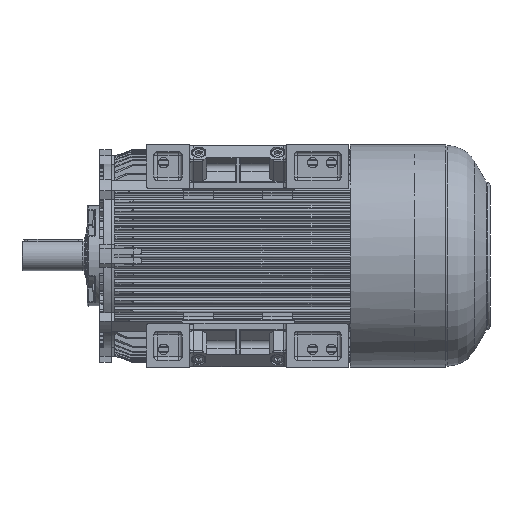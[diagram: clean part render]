
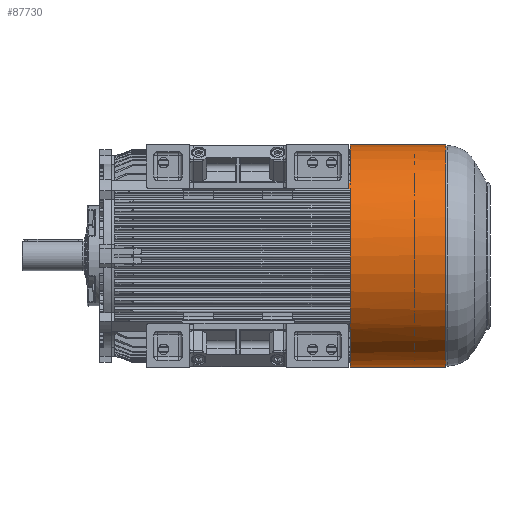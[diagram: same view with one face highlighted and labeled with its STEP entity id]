
A CAD part, front view. The second image highlights one B-rep face of the part: STEP entity #87730.
In plain terms, the highlighted cylindrical face has radius 302.496 mm (diameter 604.992 mm), a full revolution.
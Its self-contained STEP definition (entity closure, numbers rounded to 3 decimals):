
#1325=B_SPLINE_CURVE_WITH_KNOTS('',3,(#123189,#123190,#123191,#123192,#123193,
#123194,#123195,#123196,#123197,#123198,#123199,#123200,#123201,#123202,
#123203,#123204,#123205,#123206,#123207,#123208,#123209,#123210,#123211,
#123212,#123213,#123214,#123215,#123216,#123217,#123218),.UNSPECIFIED.,
 .F.,.F.,(4,1,1,1,1,1,1,1,1,1,1,1,1,1,1,1,1,1,1,1,1,1,1,1,1,1,1,4),(0.,
0.012,0.018,0.024,0.035,
0.041,0.047,0.053,0.059,
0.065,0.071,0.076,0.082,
0.088,0.094,0.1,0.106,
0.118,0.123,0.129,0.135,
0.141,0.147,0.153,0.159,
0.165,0.176,0.188),.UNSPECIFIED.);
#2523=CYLINDRICAL_SURFACE('',#92437,302.496);
#5010=LINE('',#123175,#9505);
#5011=LINE('',#123179,#9506);
#5012=LINE('',#123183,#9507);
#5013=LINE('',#123187,#9508);
#5014=LINE('',#123220,#9509);
#5015=LINE('',#123224,#9510);
#9505=VECTOR('',#102466,1000.);
#9506=VECTOR('',#102469,1000.);
#9507=VECTOR('',#102472,1000.);
#9508=VECTOR('',#102475,1000.);
#9509=VECTOR('',#102476,1000.);
#9510=VECTOR('',#102479,1000.);
#16931=ORIENTED_EDGE('',*,*,#33033,.T.);
#16932=ORIENTED_EDGE('',*,*,#33620,.T.);
#16933=ORIENTED_EDGE('',*,*,#33031,.T.);
#16934=ORIENTED_EDGE('',*,*,#33621,.T.);
#16935=ORIENTED_EDGE('',*,*,#33622,.F.);
#16936=ORIENTED_EDGE('',*,*,#33623,.F.);
#16937=ORIENTED_EDGE('',*,*,#33624,.F.);
#16938=ORIENTED_EDGE('',*,*,#33625,.T.);
#16939=ORIENTED_EDGE('',*,*,#33626,.F.);
#16940=ORIENTED_EDGE('',*,*,#33627,.F.);
#16941=ORIENTED_EDGE('',*,*,#33628,.F.);
#16942=ORIENTED_EDGE('',*,*,#33629,.F.);
#16943=ORIENTED_EDGE('',*,*,#33630,.F.);
#16944=ORIENTED_EDGE('',*,*,#33631,.F.);
#16945=ORIENTED_EDGE('',*,*,#33632,.T.);
#33031=EDGE_CURVE('',#41691,#41690,#47142,.T.);
#33033=EDGE_CURVE('',#41692,#41692,#47143,.T.);
#33620=EDGE_CURVE('',#42147,#41691,#47345,.F.);
#33621=EDGE_CURVE('',#41690,#42148,#47346,.F.);
#33622=EDGE_CURVE('',#42149,#42148,#5010,.T.);
#33623=EDGE_CURVE('',#42150,#42149,#47347,.T.);
#33624=EDGE_CURVE('',#42151,#42150,#5011,.F.);
#33625=EDGE_CURVE('',#42151,#42152,#47348,.T.);
#33626=EDGE_CURVE('',#42153,#42152,#5012,.T.);
#33627=EDGE_CURVE('',#42154,#42153,#47349,.T.);
#33628=EDGE_CURVE('',#42155,#42154,#5013,.T.);
#33629=EDGE_CURVE('',#42156,#42155,#1325,.T.);
#33630=EDGE_CURVE('',#42157,#42156,#5014,.F.);
#33631=EDGE_CURVE('',#42158,#42157,#47350,.T.);
#33632=EDGE_CURVE('',#42158,#42147,#5015,.T.);
#41690=VERTEX_POINT('',#121346);
#41691=VERTEX_POINT('',#121348);
#41692=VERTEX_POINT('',#121352);
#42147=VERTEX_POINT('',#123172);
#42148=VERTEX_POINT('',#123174);
#42149=VERTEX_POINT('',#123176);
#42150=VERTEX_POINT('',#123178);
#42151=VERTEX_POINT('',#123180);
#42152=VERTEX_POINT('',#123182);
#42153=VERTEX_POINT('',#123184);
#42154=VERTEX_POINT('',#123186);
#42155=VERTEX_POINT('',#123188);
#42156=VERTEX_POINT('',#123219);
#42157=VERTEX_POINT('',#123221);
#42158=VERTEX_POINT('',#123223);
#47142=CIRCLE('',#92049,302.496);
#47143=CIRCLE('',#92051,302.496);
#47345=CIRCLE('',#92438,302.496);
#47346=CIRCLE('',#92439,302.496);
#47347=CIRCLE('',#92440,302.496);
#47348=CIRCLE('',#92441,302.496);
#47349=CIRCLE('',#92442,302.496);
#47350=CIRCLE('',#92443,302.496);
#50819=EDGE_LOOP('',(#16931));
#50820=EDGE_LOOP('',(#16932,#16933,#16934,#16935,#16936,#16937,#16938,#16939,
#16940,#16941,#16942,#16943,#16944,#16945));
#55129=FACE_BOUND('',#50819,.T.);
#55130=FACE_BOUND('',#50820,.T.);
#87730=ADVANCED_FACE('',(#55129,#55130),#2523,.T.);
#92049=AXIS2_PLACEMENT_3D('',#121347,#101382,#101383);
#92051=AXIS2_PLACEMENT_3D('',#121351,#101387,#101388);
#92437=AXIS2_PLACEMENT_3D('',#123170,#102460,#102461);
#92438=AXIS2_PLACEMENT_3D('',#123171,#102462,#102463);
#92439=AXIS2_PLACEMENT_3D('',#123173,#102464,#102465);
#92440=AXIS2_PLACEMENT_3D('',#123177,#102467,#102468);
#92441=AXIS2_PLACEMENT_3D('',#123181,#102470,#102471);
#92442=AXIS2_PLACEMENT_3D('',#123185,#102473,#102474);
#92443=AXIS2_PLACEMENT_3D('',#123222,#102477,#102478);
#101382=DIRECTION('',(1.,0.,0.));
#101383=DIRECTION('',(0.,0.,-1.));
#101387=DIRECTION('',(-1.,0.,0.));
#101388=DIRECTION('',(0.,0.,1.));
#102460=DIRECTION('',(-1.,0.,0.));
#102461=DIRECTION('',(0.,1.,0.));
#102462=DIRECTION('',(-1.,0.,0.));
#102463=DIRECTION('',(0.,0.,1.));
#102464=DIRECTION('',(-1.,0.,0.));
#102465=DIRECTION('',(0.,0.,1.));
#102466=DIRECTION('',(-1.,0.,0.));
#102467=DIRECTION('',(-1.,0.,0.));
#102468=DIRECTION('',(0.,1.,0.));
#102469=DIRECTION('',(-1.,0.,0.));
#102470=DIRECTION('',(1.,0.,0.));
#102471=DIRECTION('',(0.,1.,0.));
#102472=DIRECTION('',(-1.,0.,0.));
#102473=DIRECTION('',(-1.,0.,0.));
#102474=DIRECTION('',(0.,1.,0.));
#102475=DIRECTION('',(-1.,0.,0.));
#102476=DIRECTION('',(-1.,0.,0.));
#102477=DIRECTION('',(-1.,0.,0.));
#102478=DIRECTION('',(0.,1.,0.));
#102479=DIRECTION('',(-1.,0.,0.));
#121346=CARTESIAN_POINT('',(630.01,-239.33,185.));
#121347=CARTESIAN_POINT('',(630.01,0.,0.));
#121348=CARTESIAN_POINT('',(630.01,-236.,189.23));
#121351=CARTESIAN_POINT('',(895.52,0.,0.));
#121352=CARTESIAN_POINT('',(895.52,0.,302.496));
#123170=CARTESIAN_POINT('',(1006.46,0.,0.));
#123171=CARTESIAN_POINT('',(630.01,0.,0.));
#123172=CARTESIAN_POINT('',(630.01,-228.,198.796));
#123173=CARTESIAN_POINT('',(630.01,0.,0.));
#123174=CARTESIAN_POINT('',(630.01,-240.815,183.063));
#123175=CARTESIAN_POINT('',(1006.46,-240.815,183.063));
#123176=CARTESIAN_POINT('',(635.373,-240.815,183.063));
#123177=CARTESIAN_POINT('',(635.373,0.,0.));
#123178=CARTESIAN_POINT('',(635.373,-240.863,-183.));
#123179=CARTESIAN_POINT('',(1006.46,-240.863,-183.));
#123180=CARTESIAN_POINT('',(632.46,-240.863,-183.));
#123181=CARTESIAN_POINT('',(632.46,0.,0.));
#123182=CARTESIAN_POINT('',(632.46,-228.,-198.796));
#123183=CARTESIAN_POINT('',(1006.46,-228.,-198.796));
#123184=CARTESIAN_POINT('',(635.373,-228.,-198.796));
#123185=CARTESIAN_POINT('',(635.373,0.,0.));
#123186=CARTESIAN_POINT('',(635.373,296.486,-60.));
#123187=CARTESIAN_POINT('',(1006.46,296.486,-60.));
#123188=CARTESIAN_POINT('',(658.46,296.486,-60.));
#123189=CARTESIAN_POINT('',(658.46,296.486,60.));
#123190=CARTESIAN_POINT('',(662.434,296.486,60.));
#123191=CARTESIAN_POINT('',(668.292,296.606,59.414));
#123192=CARTESIAN_POINT('',(675.907,296.981,57.51));
#123193=CARTESIAN_POINT('',(683.387,297.493,54.826));
#123194=CARTESIAN_POINT('',(690.247,298.155,51.152));
#123195=CARTESIAN_POINT('',(696.603,298.918,46.442));
#123196=CARTESIAN_POINT('',(700.958,299.507,42.488));
#123197=CARTESIAN_POINT('',(704.884,300.091,38.161));
#123198=CARTESIAN_POINT('',(708.396,300.656,33.438));
#123199=CARTESIAN_POINT('',(711.451,301.18,28.347));
#123200=CARTESIAN_POINT('',(713.956,301.632,23.054));
#123201=CARTESIAN_POINT('',(715.942,302.005,17.536));
#123202=CARTESIAN_POINT('',(717.397,302.287,11.753));
#123203=CARTESIAN_POINT('',(718.263,302.457,5.92));
#123204=CARTESIAN_POINT('',(718.556,302.515,0.058));
#123205=CARTESIAN_POINT('',(718.272,302.459,-5.861));
#123206=CARTESIAN_POINT('',(717.105,302.229,-13.704));
#123207=CARTESIAN_POINT('',(714.841,301.793,-21.176));
#123208=CARTESIAN_POINT('',(711.448,301.18,-28.355));
#123209=CARTESIAN_POINT('',(708.429,300.662,-33.382));
#123210=CARTESIAN_POINT('',(704.949,300.101,-38.083));
#123211=CARTESIAN_POINT('',(700.973,299.509,-42.477));
#123212=CARTESIAN_POINT('',(696.61,298.919,-46.432));
#123213=CARTESIAN_POINT('',(691.92,298.355,-49.918));
#123214=CARTESIAN_POINT('',(686.882,297.83,-52.952));
#123215=CARTESIAN_POINT('',(679.717,297.209,-56.349));
#123216=CARTESIAN_POINT('',(670.39,296.65,-59.195));
#123217=CARTESIAN_POINT('',(662.434,296.486,-60.));
#123218=CARTESIAN_POINT('',(658.46,296.486,-60.));
#123219=CARTESIAN_POINT('',(658.46,296.486,60.));
#123220=CARTESIAN_POINT('',(1006.46,296.486,60.));
#123221=CARTESIAN_POINT('',(635.373,296.486,60.));
#123222=CARTESIAN_POINT('',(635.373,0.,0.));
#123223=CARTESIAN_POINT('',(635.373,-228.,198.796));
#123224=CARTESIAN_POINT('',(1006.46,-228.,198.796));
